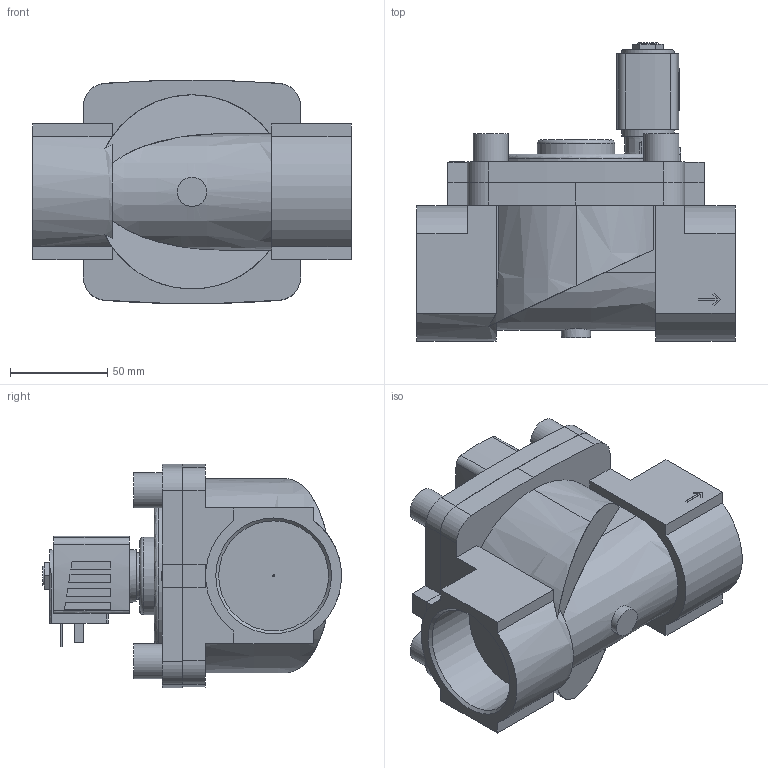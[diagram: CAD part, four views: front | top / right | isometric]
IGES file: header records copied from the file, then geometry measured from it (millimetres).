
Start section: Data from Parasolid IGES Translator 26.0.171, Copyright(c) 2006 Siemens PLM Software. All Rights Reserved.
Global section: file name: 6281-266880-2_2-Way_Solenoid_Valve__Servo-assisted__General_Purpose.igs; native system: By Siemens PLM Incorporated; preprocessor: XPlus GENERIC/IGES 26.0.171; author: Noname; organization: Noname; date: 20240909.101619; units: millimetre
Bounding box: 164 x 153.87 x 115.15 mm (x, y, z)
Surface area: 124876.6 mm2 (no closed solid volume)
Topology: 0 solids, 0 shells, 251 faces, 1298 edges, 1275 vertices
Faces by surface type: extrusion 173, revolution 78
